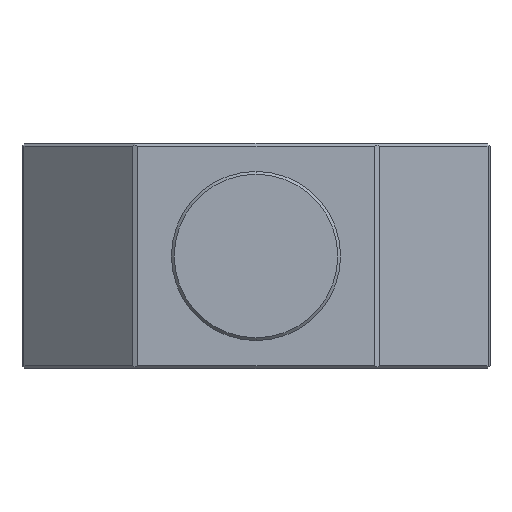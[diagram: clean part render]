
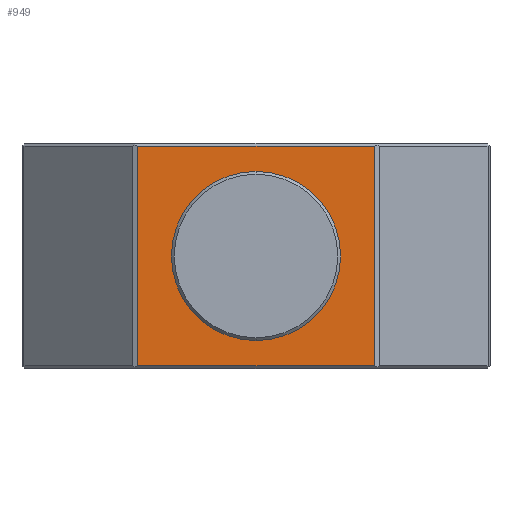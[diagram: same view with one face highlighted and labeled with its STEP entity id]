
A CAD part, front view. The second image highlights one B-rep face of the part: STEP entity #949.
In plain terms, the highlighted planar face has unit normal (0, -1, 0).
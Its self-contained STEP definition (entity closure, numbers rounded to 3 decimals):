
#26 = CIRCLE ( 'NONE', #1112, 15. ) ;
#27 = EDGE_CURVE ( 'NONE', #160, #2167, #26, .T. ) ;
#152 = LINE ( 'NONE', #327, #1182 ) ;
#160 = VERTEX_POINT ( 'NONE', #2522 ) ;
#197 = EDGE_LOOP ( 'NONE', ( #1140, #2459 ) ) ;
#250 = VERTEX_POINT ( 'NONE', #2080 ) ;
#302 = DIRECTION ( 'NONE',  ( -1., 0., 0. ) ) ;
#315 = VECTOR ( 'NONE', #302, 1000. ) ;
#327 = CARTESIAN_POINT ( 'NONE',  ( 21., -41., -20. ) ) ;
#379 = LINE ( 'NONE', #2692, #315 ) ;
#404 = ORIENTED_EDGE ( 'NONE', *, *, #816, .T. ) ;
#468 = VERTEX_POINT ( 'NONE', #1783 ) ;
#487 = ORIENTED_EDGE ( 'NONE', *, *, #2487, .T. ) ;
#497 = CARTESIAN_POINT ( 'NONE',  ( 0., -41., 0. ) ) ;
#515 = VECTOR ( 'NONE', #1075, 1000. ) ;
#645 = AXIS2_PLACEMENT_3D ( 'NONE', #2256, #1320, #1562 ) ;
#681 = DIRECTION ( 'NONE',  ( 0., -1., 0. ) ) ;
#687 = VECTOR ( 'NONE', #2802, 1000. ) ;
#816 = EDGE_CURVE ( 'NONE', #1543, #250, #152, .T. ) ;
#834 = VERTEX_POINT ( 'NONE', #2439 ) ;
#907 = EDGE_CURVE ( 'NONE', #2167, #160, #2054, .T. ) ;
#949 = ADVANCED_FACE ( 'NONE', ( #2567, #1532 ), #2651, .T. ) ;
#1075 = DIRECTION ( 'NONE',  ( 0., 0., -1. ) ) ;
#1112 = AXIS2_PLACEMENT_3D ( 'NONE', #497, #1784, #2012 ) ;
#1140 = ORIENTED_EDGE ( 'NONE', *, *, #27, .F. ) ;
#1182 = VECTOR ( 'NONE', #2676, 1000. ) ;
#1253 = ORIENTED_EDGE ( 'NONE', *, *, #2803, .T. ) ;
#1266 = LINE ( 'NONE', #1692, #687 ) ;
#1320 = DIRECTION ( 'NONE',  ( 0., -1., 0. ) ) ;
#1532 = FACE_OUTER_BOUND ( 'NONE', #1817, .T. ) ;
#1539 = CARTESIAN_POINT ( 'NONE',  ( 0., -41., 0. ) ) ;
#1543 = VERTEX_POINT ( 'NONE', #2133 ) ;
#1562 = DIRECTION ( 'NONE',  ( 1., 0., 0. ) ) ;
#1692 = CARTESIAN_POINT ( 'NONE',  ( 21.5, -41., -19.5 ) ) ;
#1720 = LINE ( 'NONE', #2781, #515 ) ;
#1783 = CARTESIAN_POINT ( 'NONE',  ( -21., -41., -19.5 ) ) ;
#1784 = DIRECTION ( 'NONE',  ( 0., -1., 0. ) ) ;
#1817 = EDGE_LOOP ( 'NONE', ( #1253, #2494, #487, #404 ) ) ;
#1948 = EDGE_CURVE ( 'NONE', #834, #468, #1720, .T. ) ;
#1972 = DIRECTION ( 'NONE',  ( 1., 0., 0. ) ) ;
#2012 = DIRECTION ( 'NONE',  ( 1., 0., 0. ) ) ;
#2054 = CIRCLE ( 'NONE', #2584, 15. ) ;
#2080 = CARTESIAN_POINT ( 'NONE',  ( 21., -41., 19.5 ) ) ;
#2133 = CARTESIAN_POINT ( 'NONE',  ( 21., -41., -19.5 ) ) ;
#2167 = VERTEX_POINT ( 'NONE', #2750 ) ;
#2256 = CARTESIAN_POINT ( 'NONE',  ( -21.5, -41., -20. ) ) ;
#2439 = CARTESIAN_POINT ( 'NONE',  ( -21., -41., 19.5 ) ) ;
#2459 = ORIENTED_EDGE ( 'NONE', *, *, #907, .F. ) ;
#2487 = EDGE_CURVE ( 'NONE', #468, #1543, #1266, .T. ) ;
#2494 = ORIENTED_EDGE ( 'NONE', *, *, #1948, .T. ) ;
#2522 = CARTESIAN_POINT ( 'NONE',  ( 0., -41., -15. ) ) ;
#2567 = FACE_BOUND ( 'NONE', #197, .T. ) ;
#2584 = AXIS2_PLACEMENT_3D ( 'NONE', #1539, #681, #1972 ) ;
#2651 = PLANE ( 'NONE',  #645 ) ;
#2676 = DIRECTION ( 'NONE',  ( 0., 0., 1. ) ) ;
#2692 = CARTESIAN_POINT ( 'NONE',  ( -21.5, -41., 19.5 ) ) ;
#2750 = CARTESIAN_POINT ( 'NONE',  ( 0., -41., 15. ) ) ;
#2781 = CARTESIAN_POINT ( 'NONE',  ( -21., -41., -20. ) ) ;
#2802 = DIRECTION ( 'NONE',  ( 1., 0., 0. ) ) ;
#2803 = EDGE_CURVE ( 'NONE', #250, #834, #379, .T. ) ;
